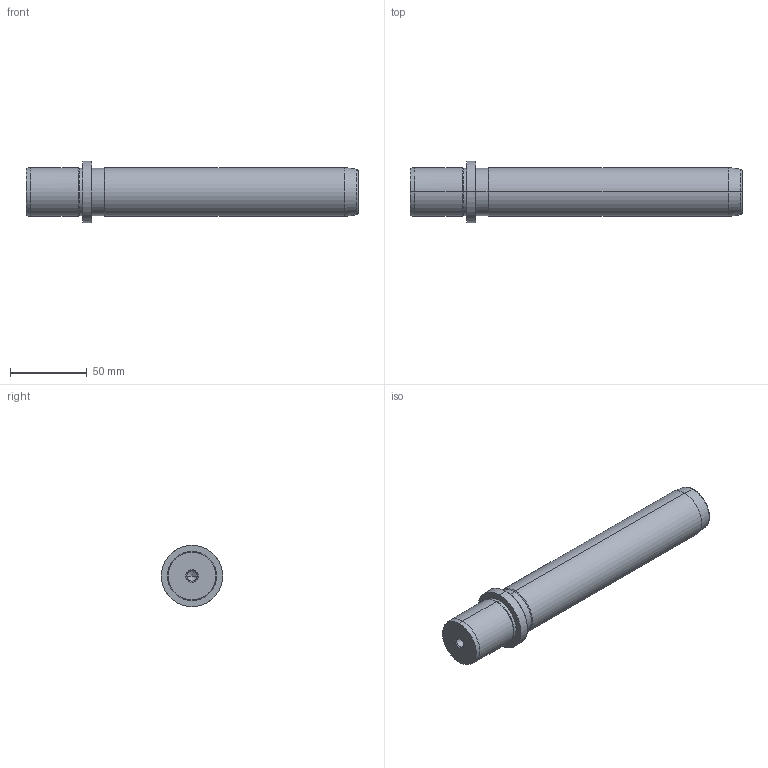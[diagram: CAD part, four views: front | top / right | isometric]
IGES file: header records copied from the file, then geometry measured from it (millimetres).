
Start section: START RECORD GO HERE.
Global section: file name: 718-32x180.igs; native system: DASSAULT SYSTEMES CATIA V5 R20 - www.3ds.com; preprocessor: CATIA Version 5 Release 20 ; author: Utente; organization: NB04-ASUS; date: 20210102.140655; units: millimetre
Bounding box: 217 x 40 x 40 mm (x, y, z)
Surface area: 25355.1 mm2 (no closed solid volume)
Topology: 0 solids, 0 shells, 36 faces, 196 edges, 192 vertices
Faces by surface type: revolution 32, plane 4
